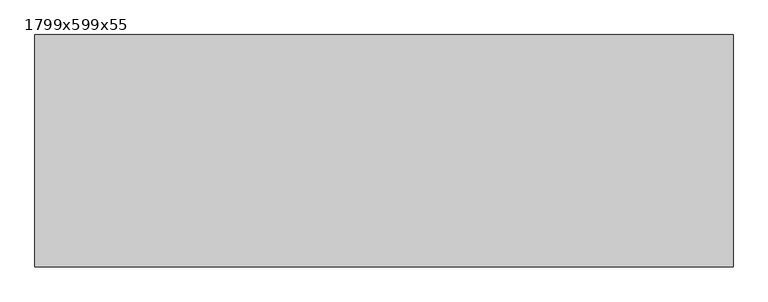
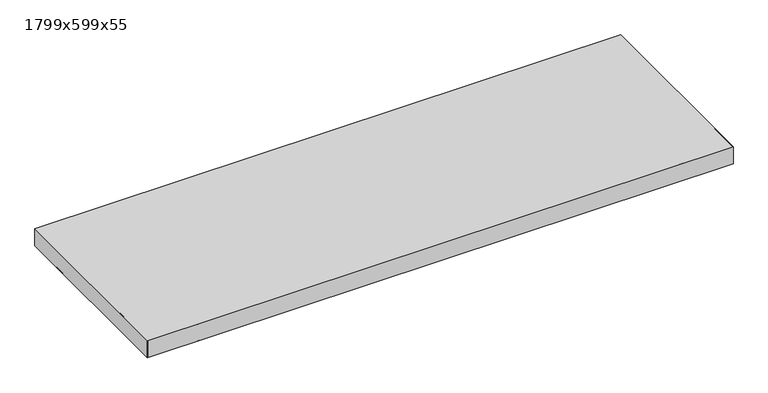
"""IFC4 building model written with IfcOpenShell, lengths in millimetres: proxy geometry, Texaa Panneaux Stereo fixés contre support par système magnétique séparés ou groupés au plafond : 1799x599x55."""

import ifcopenshell
import ifcopenshell.guid

model = None  # the IFC model being written
_history = None  # IfcOwnerHistory: only IFC2X3 demands one
_inside = {}  # id of a spatial element -> (the spatial element, [elements in it])
_under = {}  # id of a project, library or spatial element -> (it, [spatial elements below it])
_declared = {}  # id of a project -> (the project, [libraries it declares])
_typed = {}  # id of a type object -> (the type object, [elements of that type])
_made_of = {}  # id of a material, layer set ... -> (it, [elements and type objects made of it])


def new_model(schema):
    """Start an empty IFC model of exactly this schema.

    Asked for "IFC4X3", IfcOpenShell would pick the latest addendum, in which some entities
    have other attributes; the version numbers below select the first issue.
    IFC2X3 requires an IfcOwnerHistory on every rooted entity: one is made here for all.
    """
    global model, _history
    if schema == "IFC4X3":
        model = ifcopenshell.file(schema_version=(4, 3, 0, 0))
    else:
        model = ifcopenshell.file(schema=schema)
    _inside.clear()
    _under.clear()
    _declared.clear()
    _typed.clear()
    _made_of.clear()
    _history = None
    if model.schema == "IFC2X3":
        org = make("IfcOrganization", Name="unknown")
        user = make(
            "IfcPersonAndOrganization",
            ThePerson=make("IfcPerson", FamilyName="unknown"),
            TheOrganization=org,
        )
        app = make(
            "IfcApplication",
            ApplicationDeveloper=org,
            Version="unknown",
            ApplicationFullName="unknown",
            ApplicationIdentifier="unknown",
        )
        _history = make(
            "IfcOwnerHistory",
            OwningUser=user,
            OwningApplication=app,
            ChangeAction="ADDED",
            CreationDate=0,
        )
    return model


def make(cls, **values):
    """One entity of the class cls with the attributes given. An attribute that is None is left unset."""
    return model.create_entity(
        cls, **{name: value for name, value in values.items() if value is not None}
    )


def rooted(cls, **values):
    """An entity with a GlobalId (a new one), such as an element, a storey or a relation."""
    return make(cls, GlobalId=ifcopenshell.guid.new(), OwnerHistory=_history, **values)


def si_unit(unit_type, name, prefix=None):
    """IfcSIUnit, for example si_unit("LENGTHUNIT", "METRE", prefix="MILLI")."""
    return make("IfcSIUnit", UnitType=unit_type, Prefix=prefix, Name=name)


def assignment(units):
    """IfcUnitAssignment: the units of a project."""
    return None if units is None else make("IfcUnitAssignment", Units=units)


def point(xyz):
    """IfcCartesianPoint."""
    return None if xyz is None else make("IfcCartesianPoint", Coordinates=xyz)


def direction(xyz):
    """IfcDirection."""
    return None if xyz is None else make("IfcDirection", DirectionRatios=xyz)


def frame(location, z_axis=None, x_axis=None):
    """IfcAxis2Placement3D, a coordinate frame: its origin and axes. An axis left out is left unset."""
    return make(
        "IfcAxis2Placement3D",
        Location=point(location),
        Axis=direction(z_axis),
        RefDirection=direction(x_axis),
    )


def origin():
    """The frame at (0, 0, 0) with its axes left unset."""
    return frame((0.0, 0.0, 0.0))


def place(relative_to, where):
    """IfcLocalPlacement: puts the frame where relative to a parent placement (None: the world)."""
    return make(
        "IfcLocalPlacement", PlacementRelTo=relative_to, RelativePlacement=where
    )


def context(
    kind, dimensions, precision=None, world=None, true_north=None, identifier=None
):
    """IfcGeometricRepresentationContext, for example the 3D "Model" context."""
    return make(
        "IfcGeometricRepresentationContext",
        ContextIdentifier=identifier,
        ContextType=kind,
        CoordinateSpaceDimension=dimensions,
        Precision=precision,
        WorldCoordinateSystem=world,
        TrueNorth=true_north,
    )


def project(units=None, contexts=None):
    """IfcProject with its units and contexts."""
    return rooted(
        "IfcProject",
        Name="project",
        RepresentationContexts=contexts,
        UnitsInContext=assignment(units),
    )


def spatial(cls, under=None, at=None, **own):
    """A site, building, storey or space (cls), placed at a placement, below another one or the project."""
    s = rooted(cls, ObjectPlacement=at, **own)
    if under is not None:
        _under.setdefault(under.id(), (under, []))[1].append(s)
    return s


def polyline(points):
    """IfcPolyline through the points."""
    return make("IfcPolyline", Points=[point(p) for p in points])


def outline(outer, holes=None, kind="AREA"):
    """IfcArbitraryClosedProfileDef: a profile drawn as a closed curve; with holes, ...WithVoids."""
    if holes is None:
        return make("IfcArbitraryClosedProfileDef", ProfileType=kind, OuterCurve=outer)
    return make(
        "IfcArbitraryProfileDefWithVoids",
        ProfileType=kind,
        OuterCurve=outer,
        InnerCurves=holes,
    )


def extrude(swept, where, along, depth):
    """IfcExtrudedAreaSolid: the profile swept, set in the frame where, extruded along a direction by depth."""
    return make(
        "IfcExtrudedAreaSolid",
        SweptArea=swept,
        Position=where,
        ExtrudedDirection=direction(along),
        Depth=depth,
    )


def faces_of(points, faces, orient=None, outer=None):
    """IfcFace entities. A face is a list of loops; a loop is a list of indices into points, from 0.

    orient and outer hold one flag for each loop. By default every Orientation is true, the
    first loop of a face is its IfcFaceOuterBound and the others are IfcFaceBound.
    """
    made = []
    for i, loops in enumerate(faces):
        bounds = []
        for j, loop in enumerate(loops):
            is_outer = j == 0 if outer is None else outer[i][j]
            bounds.append(
                make(
                    "IfcFaceOuterBound" if is_outer else "IfcFaceBound",
                    Bound=make("IfcPolyLoop", Polygon=[points[k] for k in loop]),
                    Orientation=True if orient is None else orient[i][j],
                )
            )
        made.append(make("IfcFace", Bounds=bounds))
    return made


def faceted_brep(points, faces, orient=None, outer=None, voids=None):
    """IfcFacetedBrep: a solid bounded by flat faces; with voids (closed shells), ...WithVoids."""
    shared = [point(p) for p in points]
    hull = make("IfcClosedShell", CfsFaces=faces_of(shared, faces, orient, outer))
    if voids is None:
        return make("IfcFacetedBrep", Outer=hull)
    return make(
        "IfcFacetedBrepWithVoids",
        Outer=hull,
        Voids=[
            make(cls, CfsFaces=faces_of(shared, fs, o, b)) for cls, fs, o, b in voids
        ],
    )


def shape(context_of_items, identifier, shape_type, items):
    """IfcShapeRepresentation: the items that make up one representation, for example the "Body"."""
    return make(
        "IfcShapeRepresentation",
        ContextOfItems=context_of_items,
        RepresentationIdentifier=identifier,
        RepresentationType=shape_type,
        Items=items,
    )


def source(mapping_origin, context_of_items, identifier, shape_type, items):
    """IfcRepresentationMap: a shape defined once, which mapped items show again and again."""
    return make(
        "IfcRepresentationMap",
        MappingOrigin=mapping_origin,
        MappedRepresentation=shape(context_of_items, identifier, shape_type, items),
    )


def transform(
    local_origin,
    x_axis=None,
    y_axis=None,
    z_axis=None,
    scale=None,
    scale2=None,
    scale3=None,
    uniform=True,
):
    """IfcCartesianTransformationOperator3D, or its non-uniform kind. x_axis, y_axis, z_axis: its Axis1, 2, 3."""
    if uniform:
        return make(
            "IfcCartesianTransformationOperator3D",
            Axis1=direction(x_axis),
            Axis2=direction(y_axis),
            LocalOrigin=point(local_origin),
            Scale=scale,
            Axis3=direction(z_axis),
        )
    return make(
        "IfcCartesianTransformationOperator3DnonUniform",
        Axis1=direction(x_axis),
        Axis2=direction(y_axis),
        LocalOrigin=point(local_origin),
        Scale=scale,
        Axis3=direction(z_axis),
        Scale2=scale2,
        Scale3=scale3,
    )


def mapped(mapping_source, mapping_target):
    """IfcMappedItem: shows the shape of a source again, moved by a transform."""
    return make(
        "IfcMappedItem", MappingSource=mapping_source, MappingTarget=mapping_target
    )


def made_of(thing, what):
    """Note that an element or type object is made of a material, layer set ...; save() writes the relation."""
    if what is not None:
        _made_of.setdefault(what.id(), (what, []))[1].append(thing)
    return thing


def element(
    cls,
    number,
    at=None,
    inside=None,
    cuts=None,
    type_object=None,
    material=None,
    context=None,
    identifier="Body",
    shape_type=None,
    held_by="IfcProductDefinitionShape",
    body=None,
    shapes=None,
    **own,
):
    """One element of the class cls, such as IfcWall. Its Tag is "e" and its number.

    at: its placement. inside: the storey or other place that contains it. cuts: it is an
    opening in that element (IfcRelVoidsElement). A single representation is given by context,
    identifier, shape_type and body (its items); several are given by shapes. held_by: the class
    of the entity that holds the representations. save() writes the other relations.
    """
    e = rooted(cls, Tag="e%d" % number, ObjectPlacement=at, **own)
    if body is not None:
        shapes = [shape(context, identifier, shape_type, body)]
    if shapes is not None:
        e.Representation = make(held_by, Representations=shapes)
    if inside is not None:
        _inside.setdefault(inside.id(), (inside, []))[1].append(e)
    if cuts is not None:
        rooted(
            "IfcRelVoidsElement", RelatingBuildingElement=cuts, RelatedOpeningElement=e
        )
    if type_object is not None:
        _typed.setdefault(type_object.id(), (type_object, []))[1].append(e)
    return made_of(e, material)


def aggregate(whole, parts):
    """IfcRelAggregates: a whole, such as a stair, and the parts it consists of."""
    return rooted("IfcRelAggregates", RelatingObject=whole, RelatedObjects=parts)


def save(model, path):
    """Write the relations noted so far, then the file.

    IfcRelAggregates (storeys below a building ...), IfcRelContainedInSpatialStructure (elements
    in a storey), IfcRelDefinesByType, IfcRelAssociatesMaterial and IfcRelDeclares: one each for
    every whole, place, type object, material and project.
    """
    for whole, parts in _under.values():
        aggregate(whole, parts)
    for where, things in _inside.values():
        rooted(
            "IfcRelContainedInSpatialStructure",
            RelatedElements=things,
            RelatingStructure=where,
        )
    for kind, things in _typed.values():
        rooted("IfcRelDefinesByType", RelatedObjects=things, RelatingType=kind)
    for what, things in _made_of.values():
        rooted("IfcRelAssociatesMaterial", RelatedObjects=things, RelatingMaterial=what)
    for by, libraries in _declared.values():
        rooted("IfcRelDeclares", RelatingContext=by, RelatedDefinitions=libraries)
    model.write(path)


def proxy_1799x599x55_55e3c42d(model_context):
    return source(origin(), model_context, "Body", "SolidModel", [
        extrude(outline(polyline([(-898.5, -298.5), (-898.5, 298.5), (898.5, 298.5), (898.5, -298.5), (-898.5, -298.5)])), frame((0.0, 0.0, 11.0), z_axis=(0.0, 0.0, 1.0), x_axis=(1.0, 0.0, 0.0)), (0.0, 0.0, 1.0), 53.0),
        faceted_brep([(899.5, 299.5, 65.0), (-899.5, 299.5, 65.0), (-899.5, -299.5, 65.0), (899.5, -299.5, 65.0), (-899.5, -299.5, 10.0), (-899.5, 299.5, 10.0), (899.5, 299.5, 10.0), (899.5, -299.5, 10.0), (-849.5, 249.5, 10.0), (-849.5, -249.5, 10.0), (849.5, -249.5, 10.0), (849.5, 249.5, 10.0), (849.5, 249.5, 11.0), (-849.5, 249.5, 11.0), (849.5, -249.5, 11.0), (-849.5, -249.5, 11.0), (898.5, -298.5, 64.0), (-898.5, -298.5, 64.0), (-898.5, 298.5, 64.0), (898.5, 298.5, 64.0), (-898.5, -298.5, 11.0), (898.5, -298.5, 11.0), (898.5, 298.5, 11.0), (-898.5, 298.5, 11.0)], [[[0, 1, 2, 3]], [[4, 5, 6, 7], [8, 9, 10, 11]], [[4, 2, 1, 5]], [[5, 1, 0, 6]], [[3, 7, 6, 0]], [[2, 4, 7, 3]], [[8, 11, 12, 13]], [[11, 10, 14, 12]], [[10, 9, 15, 14]], [[13, 15, 9, 8]], [[16, 17, 18, 19]], [[20, 21, 22, 23], [12, 14, 15, 13]], [[23, 18, 17, 20]], [[22, 19, 18, 23]], [[19, 22, 21, 16]], [[20, 17, 16, 21]]]),
    ])


if __name__ == "__main__":
    model = new_model("IFC4")
    model_context = context("Model", 3, world=origin())
    ifc_project = project(units=[si_unit("LENGTHUNIT", "METRE", prefix="MILLI")], contexts=[model_context])
    site = spatial("IfcSite", under=ifc_project)
    building = spatial("IfcBuilding", under=site)
    placement = place(None, origin())
    proxy_1799x599x55_shape = proxy_1799x599x55_55e3c42d(model_context)
    element("IfcBuildingElementProxy", 1, Name="Texaa Panneaux Stereo fixés contre support par système magnétique séparés ou groupés au plafond : 1799x599x55", ObjectType="Texaa Panneaux Stereo fixés contre support par système magnétique séparés ou groupés au plafond : 1799x599x55", at=placement, inside=building, context=model_context, shape_type="MappedRepresentation", body=[
        mapped(proxy_1799x599x55_shape, transform((0.0, 0.0, 0.0), x_axis=(1.0, 0.0, 0.0), y_axis=(0.0, 1.0, 0.0), z_axis=(0.0, 0.0, 1.0))),
    ])
    save(model, "model.ifc")
